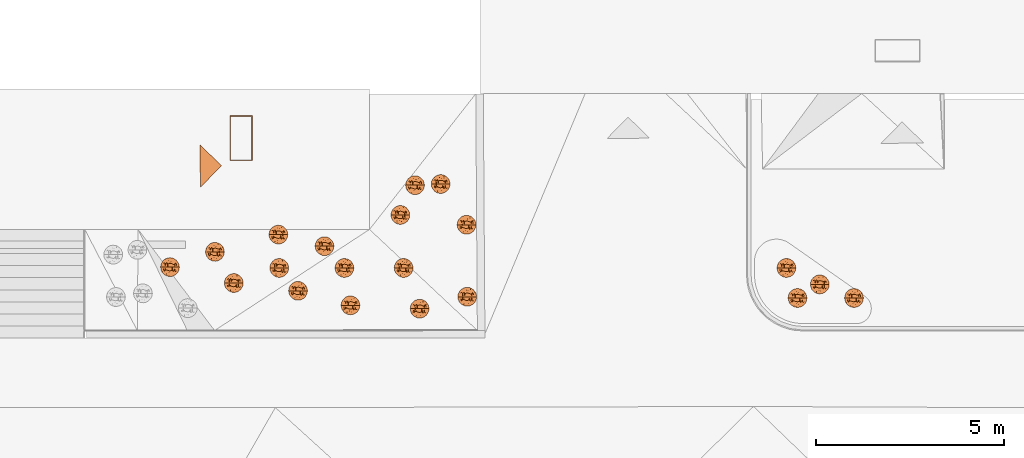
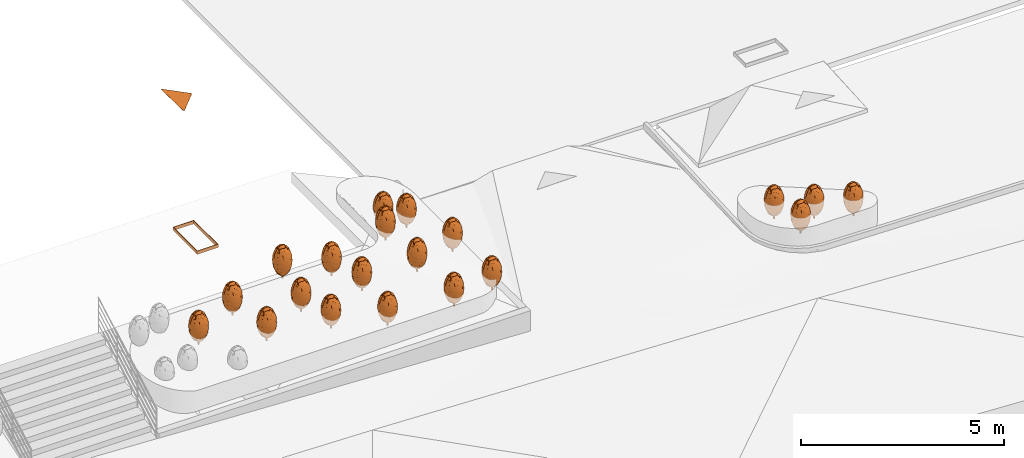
# One storey, part 22 of 23: 22 proxies.
"""IFC2X3 building model written with IfcOpenShell, lengths in metres."""

from ifc_helpers import new_model, entity, si_unit, converted_unit, direction, frame, origin, place, context, subcontext, project, spatial, polyline, outline, extrude, faceted_brep, source, transform, mapped, material, type_object, type_shapes, element, save


model = new_model("IFC2X3")

# Units and contexts
model_context = context("Model", 3, precision=1e-05, world=origin(), true_north=direction((0.7716245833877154, 0.6360782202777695)))
body_context = subcontext(model_context, "Body", "Model", "MODEL_VIEW")
ifc_project = project(units=[si_unit("LENGTHUNIT", "METRE"), converted_unit("PLANEANGLEUNIT", "DEGREE", entity("IfcPlaneAngleMeasure", 0.017453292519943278), si_unit("PLANEANGLEUNIT", "RADIAN"), dimensions=[0, 0, 0, 0, 0, 0, 0]), si_unit("AREAUNIT", "SQUARE_METRE")], contexts=[model_context])

# Site, building, storey
site_placement = place(None, origin())
site = spatial("IfcSite", under=ifc_project, at=site_placement, Name="Default", CompositionType="ELEMENT")
building_placement = place(site_placement, origin())
building = spatial("IfcBuilding", under=site, at=building_placement, Name="<Building Name>", CompositionType="ELEMENT")
storey_placement = place(building_placement, origin())
storey = spatial("IfcBuildingStorey", under=building, at=storey_placement, Name="00 - HAV", CompositionType="ELEMENT", Elevation=0.0)

# Proxies
ifc_material_1 = material(Name="Entrépil")
building_element_proxy_type_1 = type_object("IfcBuildingElementProxyType", Name="011_Entrépil_3D:Hovedentré", PredefinedType="NOTDEFINED", material=ifc_material_1)
shared_shape_1 = source(origin(), body_context, "Body", "SweptSolid", [
    extrude(outline(polyline([(-0.2666666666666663, -0.2666666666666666), (0.5333333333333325, -0.2666666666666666), (-0.2666666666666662, 0.5333333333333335), (-0.2666666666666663, -0.2666666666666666)])), frame((0.0, -0.377123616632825, 0.0), z_axis=(0.0, 0.0, 1.0), x_axis=(-0.7071067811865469, -0.7071067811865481, 0.0)), (0.0, 0.0, 1.0), 0.003),
])
type_shapes(building_element_proxy_type_1, [shared_shape_1])
proxy_1_placement = place(storey_placement, frame((251.62957156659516, 51.27847265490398, 38.0), z_axis=(0.0, 0.0, 1.0), x_axis=(0.01389123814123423, -0.9999035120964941, 0.0)))
element("IfcBuildingElementProxy", 1, at=proxy_1_placement, inside=storey, type_object=building_element_proxy_type_1, material=ifc_material_1, Name="011_Entrépil_3D:Hovedentré", ObjectType="011_Entrépil_3D:Hovedentré", context=body_context, shape_type="MappedRepresentation", body=[
    mapped(shared_shape_1, transform((0.0, 0.0, 0.0), scale=1.0)),
])
ifc_material_2 = material(Name="<Unnamed>")
building_element_proxy_type_2 = type_object("IfcBuildingElementProxyType", Name="812_Shrub_Solitary:812xxx Amelanchier laevis (Allegheny serviceberry) (Multi-stem), 4m 2", PredefinedType="NOTDEFINED", material=ifc_material_2)
shared_shape_2 = source(origin(), body_context, "Body", "Brep", [
    faceted_brep([(0.01250000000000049, -0.02165063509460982, 0.10249999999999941), (0.017677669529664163, -0.0176776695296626, 0.10249999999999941), (0.021650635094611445, -0.01249999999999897, 0.10249999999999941), (0.0241481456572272, -0.006470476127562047, 0.10249999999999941), (0.025000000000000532, 0.0, 0.10249999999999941), (0.024148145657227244, 0.006470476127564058, 0.10249999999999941), (0.021650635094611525, 0.012500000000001, 0.10249999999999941), (0.017677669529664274, 0.017677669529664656, 0.10249999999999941), (0.012500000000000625, 0.02165063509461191, 0.10249999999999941), (0.0064704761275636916, 0.02414814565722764, 0.10249999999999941), (0.0, 0.025000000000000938, 0.10249999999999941), (-0.006470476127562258, 0.02414814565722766, 0.10249999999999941), (-0.012499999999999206, 0.021650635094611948, 0.10249999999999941), (-0.017677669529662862, 0.017677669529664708, 0.10249999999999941), (-0.02165063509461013, 0.012500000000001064, 0.10249999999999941), (-0.024148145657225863, 0.006470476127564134, 0.10249999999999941), (-0.024999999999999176, 0.0, 0.10249999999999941), (-0.024148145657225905, -0.006470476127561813, 0.10249999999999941), (-0.021650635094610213, -0.012499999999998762, 0.10249999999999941), (-0.01767766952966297, -0.017677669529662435, 0.10249999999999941), (-0.012499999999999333, -0.0216506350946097, 0.10249999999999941), (-0.006470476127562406, -0.024148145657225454, 0.10249999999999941), (0.0, -0.02499999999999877, 0.10249999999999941), (0.0064704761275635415, -0.024148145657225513, 0.10249999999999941), (0.0, 0.025000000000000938, 0.0), (0.0064704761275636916, 0.02414814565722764, 0.0), (0.012500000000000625, 0.02165063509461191, 0.0), (0.017677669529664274, 0.017677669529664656, 0.0), (0.021650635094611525, 0.012500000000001, 0.0), (0.024148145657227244, 0.006470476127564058, 0.0), (0.025000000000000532, 0.0, 0.0), (0.0241481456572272, -0.006470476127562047, 0.0), (0.021650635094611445, -0.01249999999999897, 0.0), (0.017677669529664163, -0.0176776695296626, 0.0), (0.01250000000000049, -0.02165063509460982, 0.0), (0.0064704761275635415, -0.024148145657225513, 0.0), (0.0, -0.02499999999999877, 0.0), (-0.006470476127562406, -0.024148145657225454, 0.0), (-0.012499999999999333, -0.0216506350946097, 0.0), (-0.01767766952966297, -0.017677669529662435, 0.0), (-0.021650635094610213, -0.012499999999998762, 0.0), (-0.024148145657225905, -0.006470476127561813, 0.0), (-0.024999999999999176, 0.0, 0.0), (-0.024148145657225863, 0.006470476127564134, 0.0), (-0.02165063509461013, 0.012500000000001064, 0.0), (-0.017677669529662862, 0.017677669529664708, 0.0), (-0.012499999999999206, 0.021650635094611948, 0.0), (-0.006470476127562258, 0.02414814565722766, 0.0)], [[[0, 1, 2, 3, 4, 5, 6, 7, 8, 9, 10, 11, 12, 13, 14, 15, 16, 17, 18, 19, 20, 21, 22, 23]], [[24, 25, 26, 27, 28, 29, 30, 31, 32, 33, 34, 35, 36, 37, 38, 39, 40, 41, 42, 43, 44, 45, 46, 47]], [[17, 41, 40, 18]], [[39, 19, 18, 40]], [[20, 38, 37, 21]], [[39, 38, 20, 19]], [[21, 37, 36, 22]], [[41, 17, 16, 42]], [[23, 35, 34, 0]], [[33, 1, 0, 34]], [[2, 32, 31, 3]], [[33, 32, 2, 1]], [[3, 31, 30, 4]], [[35, 23, 22, 36]], [[30, 29, 5, 4]], [[8, 26, 25, 9]], [[26, 8, 7, 27]], [[24, 10, 9, 25]], [[5, 29, 28, 6]], [[28, 27, 7, 6]], [[11, 47, 46, 12]], [[45, 13, 12, 46]], [[14, 44, 43, 15]], [[45, 44, 14, 13]], [[15, 43, 42, 16]], [[47, 11, 10, 24]]]),
    faceted_brep([(0.23850803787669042, 0.06991061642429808, 0.5985139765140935), (0.24620193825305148, 0.0, 0.4718583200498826), (0.22939334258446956, 0.07726705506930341, 0.4374676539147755), (0.20614438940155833, 0.12376125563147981, 0.42676055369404), (0.21249588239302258, 0.13170231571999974, 0.550000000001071), (0.1606969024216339, 0.0, 0.20528000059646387), (0.20815678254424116, 0.06833092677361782, 0.3332390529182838), (0.1818434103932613, 0.0, 0.2411912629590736), (0.22955402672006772, 0.0, 0.37176410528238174), (0.21650635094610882, 0.0, 0.32500000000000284), (0.2394973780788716, 0.0, 0.42093854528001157), (-0.04646607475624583, 0.22683739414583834, 0.7196751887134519), (-0.09452961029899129, 0.20157258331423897, 0.7546992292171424), (-0.07216705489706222, 0.17646586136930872, 0.8410868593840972), (0.08550503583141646, 0.0, 0.12713832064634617), (0.08891084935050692, 0.08663704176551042, 0.15940048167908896), (0.11951962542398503, 0.12413953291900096, 0.2239840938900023), (0.20053079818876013, 0.0, 0.28127863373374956), (0.0429519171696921, 0.12823742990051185, 0.17152760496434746), (0.028420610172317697, 0.1873149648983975, 0.2563992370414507), (0.07825571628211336, 0.15560596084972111, 0.22718803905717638), (0.0, 0.0, 0.10000000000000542), (-0.004372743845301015, 0.08574662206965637, 0.12737013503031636), (0.02902322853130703, 0.0, 0.10304273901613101), (0.057653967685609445, 0.0, 0.11212980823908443), (-0.18184341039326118, 0.0, 0.8588087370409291), (-0.1730739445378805, 0.10013384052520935, 0.820111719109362), (-0.22008812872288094, 0.08946742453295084, 0.6900857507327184), (0.053638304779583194, 0.067106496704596, 0.12740365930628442), (-0.17866462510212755, 0.14938268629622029, 0.3863705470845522), (-0.17300950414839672, 0.09642195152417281, 0.275415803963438), (-0.20799024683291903, 0.10007060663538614, 0.37710692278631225), (0.1818434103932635, 0.0, 0.8588087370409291), (0.1915393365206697, 0.11790696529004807, 0.7464444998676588), (0.1707596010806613, 0.06946813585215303, 0.8539567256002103), (0.14896670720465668, 0.11208042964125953, 0.8498331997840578), (0.15051536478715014, 0.17622808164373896, 0.7187473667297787), (0.11219979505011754, 0.0, 0.9521346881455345), (0.1203563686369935, 0.07887752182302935, 0.9179786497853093), (0.08550503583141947, 0.0, 0.9728616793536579), (0.15820107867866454, 0.19181689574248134, 0.503106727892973), (0.17120329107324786, 0.07276259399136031, 0.24936746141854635), (0.14996737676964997, 0.11073733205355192, 0.2501660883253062), (0.13541917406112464, 0.16776818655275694, 0.32220587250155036), (0.170606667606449, 0.13531021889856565, 0.328925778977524), (-0.11334119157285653, 0.15094946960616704, 0.25495352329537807), (-0.14499102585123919, 0.11835688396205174, 0.25167069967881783), (-0.13945550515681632, 0.17086120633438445, 0.3380993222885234), (0.24957703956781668, 0.0, 0.523834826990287), (0.24957703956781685, 0.0, 0.5761651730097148), (0.11219979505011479, 0.0, 0.14786531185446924), (0.24620193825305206, 0.0, 0.6281416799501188), (0.23949737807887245, 0.0, 0.6790614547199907), (-0.13737724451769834, 0.0, 0.17403048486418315), (0.22955402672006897, 0.0, 0.7282358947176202), (0.22120629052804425, 0.06932199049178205, 0.7184922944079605), (-0.20053079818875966, 0.0, 0.8187213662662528), (-0.21650635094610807, 0.0, 0.7749999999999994), (0.21650635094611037, 0.0, 0.7749999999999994), (-0.05765396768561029, 0.0, 0.9878701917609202), (-0.0516096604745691, 0.08560533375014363, 0.9624639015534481), (-0.08578183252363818, 0.1210822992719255, 0.9121560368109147), (0.20053079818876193, 0.0, 0.8187213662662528), (-0.24957703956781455, 0.0, 0.5761651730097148), (-0.23797372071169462, 0.07584140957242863, 0.530564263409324), (-0.24957703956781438, 0.0, 0.523834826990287), (0.13737724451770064, 0.0, 0.17403048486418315), (0.13737724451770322, 0.0, 0.9259695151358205), (-0.026479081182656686, 0.17855758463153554, 0.8613326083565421), (0.02483314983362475, 0.2186065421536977, 0.7636964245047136), (-0.05739184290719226, 0.24332319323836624, 0.5500000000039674), (-0.0033896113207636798, 0.244481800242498, 0.6438274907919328), (0.08896846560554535, 0.07373557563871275, 0.9490469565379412), (0.05765396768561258, 0.0, 0.9878701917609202), (-0.20416814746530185, 0.14427531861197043, 0.5500000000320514), (2.568366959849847e-09, 0.10077345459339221, 0.9618213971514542), (0.0, 0.0, 1.0), (0.02902322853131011, 0.0, 0.9969572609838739), (0.16069690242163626, 0.0, 0.8947199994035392), (-0.05765396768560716, 0.0, 0.11212980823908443), (-0.08550503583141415, 0.0, 0.12713832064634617), (-0.08578183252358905, 0.12108229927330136, 0.18784396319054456), (-0.08550503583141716, 0.0, 0.9728616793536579), (-0.12066945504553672, 0.08428787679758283, 0.9137355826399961), (-0.11219979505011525, 0.0, 0.9521346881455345), (-0.051609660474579, 0.08560533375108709, 0.1375360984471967), (-0.20053079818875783, 0.0, 0.28127863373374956), (-0.2308466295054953, 0.058309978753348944, 0.41280055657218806), (-0.023374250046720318, 0.13205871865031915, 0.17022926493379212), (-0.181843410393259, 0.0, 0.2411912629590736), (-0.1606969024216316, 0.0, 0.20528000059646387), (0.08658519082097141, 0.18332310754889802, 0.8132904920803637), (0.026110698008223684, 0.15717904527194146, 0.8967651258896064), (0.08246489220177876, 0.13964564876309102, 0.8924668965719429), (-0.12066945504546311, 0.0842878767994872, 0.18626441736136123), (0.05095144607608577, 0.09001895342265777, 0.9596751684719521), (-0.2165063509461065, 0.0, 0.32500000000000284), (-0.23781016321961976, 0.052988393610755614, 0.6508410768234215), (-0.22955402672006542, 0.0, 0.37176410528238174), (-0.23949737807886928, 0.0, 0.42093854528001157), (-0.24620193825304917, 0.0, 0.4718583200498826), (-0.08031082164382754, 0.21357520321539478, 0.3661195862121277), (-0.012349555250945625, 0.23447128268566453, 0.39546493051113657), (0.20939264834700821, 0.12324851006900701, 0.6559483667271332), (-0.14472249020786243, 0.1183987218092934, 0.848697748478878), (-0.13737724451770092, 0.0, 0.9259695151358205), (0.11730355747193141, 0.14275963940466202, 0.8531253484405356), (0.1840833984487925, 0.1628436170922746, 0.6323931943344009), (-0.17594791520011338, 0.1759340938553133, 0.5062957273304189), (-0.18270938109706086, 0.15312253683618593, 0.6855481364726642), (-0.14118269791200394, 0.20615647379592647, 0.5352714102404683), (-0.02902322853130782, 0.0, 0.9969572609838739), (-0.14808527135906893, 0.1909384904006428, 0.4345577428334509), (-0.11094403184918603, 0.2171588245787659, 0.4508615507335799), (-0.02647908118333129, 0.17855758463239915, 0.23866739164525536), (-0.23949737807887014, 0.0, 0.6790614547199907), (-0.24620193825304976, 0.0, 0.6281416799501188), (-0.22955402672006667, 0.0, 0.7282358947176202), (-0.16069690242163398, 0.0, 0.8947199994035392), (-0.029023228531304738, 0.0, 0.10304273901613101), (-0.13945550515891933, 0.17086120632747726, 0.7619006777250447), (-0.11219979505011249, 0.0, 0.14786531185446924), (-0.07181989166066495, 0.17685086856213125, 0.2593923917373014), (-0.11334119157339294, 0.1509494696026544, 0.845046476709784), (0.1109116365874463, 0.22078270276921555, 0.481372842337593), (0.12522531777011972, 0.2139791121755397, 0.6078122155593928), (0.09324044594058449, 0.21198940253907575, 0.7194938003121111), (0.05067237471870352, 0.23586133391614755, 0.66805779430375), (0.061434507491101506, 0.23474314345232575, 0.44167860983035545), (0.052992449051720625, 0.21379342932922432, 0.3371415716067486), (-0.10157212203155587, 0.22830956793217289, 0.5636900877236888), (-0.12347067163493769, 0.20953070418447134, 0.6542117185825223), (0.09763635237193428, 0.20402573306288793, 0.35831358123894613), (-0.01035446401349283, 0.24963845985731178, 0.5345761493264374), (0.03671083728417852, 0.24727484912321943, 0.554917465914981), (0.0836342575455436, 0.23531808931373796, 0.5705789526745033), (-0.23850803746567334, -0.06991061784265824, 0.5985139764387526), (-0.22939334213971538, -0.07726705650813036, 0.43746765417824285), (-0.20614438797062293, -0.12376125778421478, 0.4267605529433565), (-0.212495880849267, -0.1317023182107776, 0.5500000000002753), (-0.20815678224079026, -0.06833092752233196, 0.33323905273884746), (0.04646608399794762, -0.22683739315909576, 0.7196751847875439), (0.0945296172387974, -0.20157258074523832, 0.7546992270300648), (0.07216706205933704, -0.17646585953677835, 0.8410868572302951), (-0.08891084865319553, -0.08663704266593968, 0.1594004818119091), (-0.11951962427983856, -0.12413953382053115, 0.22398409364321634), (-0.04295191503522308, -0.12823743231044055, 0.17152760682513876), (-0.028420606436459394, -0.1873149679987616, 0.25639924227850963), (-0.07825571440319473, -0.1556059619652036, 0.22718803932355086), (0.004372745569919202, -0.08574662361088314, 0.12737013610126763), (0.1730739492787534, -0.10013384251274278, 0.8201117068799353), (0.22008813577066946, -0.08946741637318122, 0.690085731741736), (-0.05363830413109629, -0.06710649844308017, 0.12740365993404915), (0.17866463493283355, -0.14938268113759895, 0.3863705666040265), (0.17300950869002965, -0.09642195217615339, 0.27541581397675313), (0.207990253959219, -0.10007060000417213, 0.3771069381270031), (-0.19153933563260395, -0.1179069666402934, 0.746444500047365), (-0.1707596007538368, -0.06946813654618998, 0.853956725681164), (-0.14896670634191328, -0.11208043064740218, 0.8498331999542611), (-0.15051536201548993, -0.17622808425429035, 0.7187473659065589), (-0.12035636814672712, -0.07887752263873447, 0.9179786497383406), (-0.15820107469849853, -0.19181689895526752, 0.5031067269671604), (-0.1712032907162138, -0.07276259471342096, 0.2493674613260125), (-0.1499673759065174, -0.11073733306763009, 0.2501660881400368), (-0.13541917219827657, -0.16776818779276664, 0.32220587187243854), (-0.1706066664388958, -0.13531022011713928, 0.3289257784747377), (0.11334119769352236, -0.1509494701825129, 0.2549535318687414), (0.14499103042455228, -0.11835688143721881, 0.2516707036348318), (0.13945551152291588, -0.17086120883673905, 0.3380993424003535), (-0.22120629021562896, -0.06932199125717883, 0.7184922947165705), (0.05160966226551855, -0.08560533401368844, 0.9624639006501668), (0.08578183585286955, -0.12108229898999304, 0.9121560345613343), (0.23797372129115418, -0.07584140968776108, 0.5305642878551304), (0.026479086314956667, -0.17855758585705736, 0.8613326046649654), (-0.024833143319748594, -0.21860654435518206, 0.7636964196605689), (0.05739185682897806, -0.2433231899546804, 0.5499999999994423), (0.0033896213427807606, -0.24448180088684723, 0.643827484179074), (-0.08896846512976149, -0.07373557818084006, 0.9490469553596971), (0.20416816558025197, -0.144275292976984, 0.5499999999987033), (0.0, -0.1007734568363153, 0.9618213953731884), (0.08578183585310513, -0.12108229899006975, 0.18784396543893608), (0.12066945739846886, -0.08428787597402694, 0.9137355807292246), (0.05160966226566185, -0.08560533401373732, 0.13753609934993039), (0.23084663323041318, -0.05830997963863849, 0.4128005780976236), (0.023374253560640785, -0.1320587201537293, 0.17022926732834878), (-0.0865851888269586, -0.183323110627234, 0.8132904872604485), (-0.0261106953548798, -0.15717904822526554, 0.8967651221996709), (-0.08246489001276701, -0.13964565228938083, 0.8924668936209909), (0.12066945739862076, -0.08428787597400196, 0.1862644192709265), (-0.050951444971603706, -0.09001895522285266, 0.9596751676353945), (0.23781016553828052, -0.05298839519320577, 0.6508410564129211), (0.08031082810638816, -0.2135752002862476, 0.3661195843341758), (0.012349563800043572, -0.2344712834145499, 0.3954649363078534), (-0.20939264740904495, -0.12324851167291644, 0.6559483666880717), (0.1447224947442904, -0.11839871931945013, 0.8486977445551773), (-0.1173035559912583, -0.14275964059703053, 0.8531253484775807), (-0.18408339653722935, -0.16284361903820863, 0.6323931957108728), (0.17594794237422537, -0.1759340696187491, 0.5062957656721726), (0.18270939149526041, -0.1531225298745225, 0.6855481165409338), (0.1411827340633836, -0.2061564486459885, 0.5352713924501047), (0.14808532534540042, -0.19093844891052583, 0.4345577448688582), (0.11094408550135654, -0.2171587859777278, 0.4508614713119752), (0.026479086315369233, -0.17855758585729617, 0.23866739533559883), (0.13945551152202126, -0.17086120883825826, 0.7619006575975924), (0.071819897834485, -0.17685086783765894, 0.25939239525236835), (0.11334119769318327, -0.15094947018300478, 0.8450464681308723), (-0.11091162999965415, -0.22078270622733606, 0.4813728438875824), (-0.12522531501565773, -0.21397911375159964, 0.6078122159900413), (-0.09324044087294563, -0.21198940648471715, 0.7194937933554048), (-0.05067236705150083, -0.2358613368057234, 0.6680577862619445), (-0.06143449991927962, -0.2347431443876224, 0.4416786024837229), (-0.05299244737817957, -0.21379342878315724, 0.3371415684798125), (0.10157214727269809, -0.2283095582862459, 0.5636900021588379), (0.1234706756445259, -0.2095307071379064, 0.6542116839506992), (-0.09763634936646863, -0.20402573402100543, 0.35831357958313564), (0.010354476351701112, -0.24963845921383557, 0.5345761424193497), (-0.03671082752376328, -0.24727485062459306, 0.5549174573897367), (-0.08363425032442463, -0.23531809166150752, 0.5705789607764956)], [[[0, 1, 2]], [[2, 3, 4]], [[5, 6, 7]], [[2, 8, 9]], [[2, 1, 10]], [[11, 12, 13]], [[14, 15, 16]], [[8, 2, 10]], [[6, 17, 7]], [[18, 19, 20]], [[21, 22, 23]], [[15, 14, 24]], [[25, 26, 27]], [[28, 22, 18]], [[6, 2, 9]], [[29, 30, 31]], [[32, 33, 34]], [[35, 33, 36]], [[37, 38, 39]], [[4, 3, 40]], [[5, 41, 6]], [[42, 43, 44]], [[45, 46, 47]], [[35, 38, 37]], [[48, 1, 0]], [[0, 49, 48]], [[41, 42, 44]], [[16, 42, 50]], [[50, 14, 16]], [[51, 0, 52]], [[30, 46, 53]], [[0, 54, 52]], [[54, 0, 55]], [[56, 27, 57]], [[54, 55, 58]], [[59, 60, 61]], [[58, 55, 62]], [[62, 55, 32]], [[63, 64, 65]], [[66, 41, 5]], [[24, 23, 28]], [[34, 35, 67]], [[49, 0, 51]], [[11, 68, 69]], [[37, 67, 35]], [[70, 11, 71]], [[72, 73, 39]], [[64, 74, 31]], [[75, 76, 77]], [[78, 34, 67]], [[79, 80, 81]], [[82, 83, 84]], [[81, 85, 79]], [[86, 87, 31]], [[64, 31, 87]], [[22, 85, 88]], [[89, 30, 90]], [[91, 92, 93]], [[32, 55, 33]], [[80, 94, 81]], [[75, 95, 92]], [[30, 89, 31]], [[96, 87, 86]], [[97, 64, 63]], [[27, 64, 97]], [[96, 98, 87]], [[87, 99, 64]], [[47, 30, 29]], [[99, 100, 64]], [[101, 70, 102]], [[15, 20, 16]], [[99, 87, 98]], [[30, 53, 90]], [[86, 31, 89]], [[103, 0, 4]], [[100, 65, 64]], [[83, 104, 84]], [[105, 84, 104]], [[38, 106, 93]], [[33, 107, 36]], [[83, 82, 61]], [[61, 82, 59]], [[108, 109, 110]], [[60, 59, 111]], [[26, 109, 27]], [[112, 110, 113]], [[102, 19, 114]], [[77, 95, 75]], [[115, 97, 116]], [[57, 97, 117]], [[75, 111, 76]], [[3, 2, 6]], [[0, 2, 4]], [[118, 26, 25]], [[64, 27, 74]], [[115, 117, 97]], [[27, 97, 57]], [[25, 27, 56]], [[44, 43, 40]], [[105, 26, 118]], [[116, 97, 63]], [[6, 9, 17]], [[68, 92, 69]], [[21, 119, 22]], [[109, 26, 120]], [[4, 107, 103]], [[94, 80, 121]], [[81, 45, 122]], [[77, 73, 95]], [[60, 68, 61]], [[66, 50, 42]], [[6, 41, 44]], [[32, 34, 78]], [[33, 35, 34]], [[85, 119, 79]], [[18, 22, 88]], [[61, 123, 83]], [[83, 123, 104]], [[121, 53, 46]], [[45, 81, 94]], [[72, 95, 73]], [[75, 92, 68]], [[28, 15, 24]], [[20, 15, 18]], [[106, 38, 35]], [[72, 38, 93]], [[6, 44, 3]], [[40, 3, 44]], [[40, 124, 125]], [[126, 106, 36]], [[111, 75, 60]], [[68, 60, 75]], [[88, 81, 114]], [[22, 119, 85]], [[95, 93, 92]], [[93, 106, 91]], [[127, 69, 126]], [[71, 69, 127]], [[125, 126, 36]], [[102, 128, 129]], [[130, 110, 131]], [[12, 120, 123]], [[18, 88, 19]], [[132, 16, 20]], [[81, 122, 114]], [[20, 19, 129]], [[71, 133, 70]], [[134, 135, 128]], [[12, 131, 120]], [[27, 109, 74]], [[131, 109, 120]], [[110, 130, 113]], [[13, 12, 123]], [[104, 120, 26]], [[123, 61, 13]], [[70, 130, 11]], [[131, 12, 11]], [[109, 131, 110]], [[61, 68, 13]], [[11, 13, 68]], [[46, 45, 94]], [[45, 47, 101]], [[112, 113, 47]], [[114, 101, 102]], [[45, 101, 122]], [[101, 114, 122]], [[38, 72, 39]], [[95, 72, 93]], [[36, 106, 35]], [[91, 106, 126]], [[126, 69, 91]], [[92, 91, 69]], [[33, 103, 107]], [[36, 107, 125]], [[120, 104, 123]], [[105, 104, 26]], [[46, 94, 121]], [[47, 46, 30]], [[42, 41, 66]], [[43, 16, 132]], [[16, 43, 42]], [[43, 132, 124]], [[40, 43, 124]], [[126, 125, 135]], [[128, 124, 132]], [[135, 125, 124]], [[129, 128, 132]], [[133, 128, 102]], [[20, 129, 132]], [[102, 129, 19]], [[128, 135, 124]], [[135, 134, 127]], [[31, 74, 29]], [[112, 108, 110]], [[11, 130, 131]], [[113, 70, 101]], [[70, 113, 130]], [[47, 113, 101]], [[47, 29, 112]], [[108, 29, 74]], [[29, 108, 112]], [[109, 108, 74]], [[4, 40, 107]], [[125, 107, 40]], [[22, 28, 23]], [[15, 28, 18]], [[81, 88, 85]], [[88, 114, 19]], [[33, 55, 103]], [[0, 103, 55]], [[135, 127, 126]], [[71, 127, 134]], [[71, 134, 133]], [[69, 71, 11]], [[128, 133, 134]], [[102, 70, 133]], [[136, 100, 137]], [[137, 138, 139]], [[90, 140, 89]], [[137, 98, 96]], [[137, 100, 99]], [[141, 142, 143]], [[80, 144, 145]], [[98, 137, 99]], [[140, 86, 89]], [[146, 147, 148]], [[21, 149, 119]], [[144, 80, 79]], [[32, 150, 151]], [[152, 149, 146]], [[140, 137, 96]], [[153, 154, 155]], [[25, 156, 157]], [[158, 156, 159]], [[84, 160, 82]], [[139, 138, 161]], [[90, 162, 140]], [[163, 164, 165]], [[166, 167, 168]], [[158, 160, 84]], [[65, 100, 136]], [[136, 63, 65]], [[162, 163, 165]], [[145, 163, 121]], [[121, 80, 145]], [[116, 136, 115]], [[154, 167, 66]], [[136, 117, 115]], [[117, 136, 169]], [[62, 151, 58]], [[117, 169, 57]], [[73, 170, 171]], [[57, 169, 56]], [[56, 169, 25]], [[49, 172, 48]], [[53, 162, 90]], [[79, 119, 152]], [[157, 158, 105]], [[63, 136, 116]], [[141, 173, 174]], [[84, 105, 158]], [[175, 141, 176]], [[177, 59, 82]], [[172, 178, 155]], [[179, 76, 111]], [[118, 157, 105]], [[24, 14, 180]], [[39, 181, 37]], [[180, 182, 24]], [[17, 183, 155]], [[172, 155, 183]], [[149, 182, 184]], [[7, 154, 5]], [[185, 186, 187]], [[25, 169, 156]], [[14, 188, 180]], [[179, 189, 186]], [[7, 155, 154]], [[9, 183, 17]], [[190, 172, 49]], [[151, 172, 190]], [[9, 8, 183]], [[183, 10, 172]], [[168, 154, 153]], [[10, 1, 172]], [[191, 175, 192]], [[144, 148, 145]], [[10, 183, 8]], [[154, 66, 5]], [[17, 155, 7]], [[193, 136, 139]], [[1, 48, 172]], [[181, 194, 37]], [[67, 37, 194]], [[160, 195, 187]], [[156, 196, 159]], [[181, 39, 171]], [[171, 39, 73]], [[197, 198, 199]], [[170, 73, 77]], [[150, 198, 151]], [[200, 199, 201]], [[192, 147, 202]], [[111, 189, 179]], [[190, 51, 52]], [[58, 190, 54]], [[179, 77, 76]], [[138, 137, 140]], [[136, 137, 139]], [[78, 150, 32]], [[172, 151, 178]], [[52, 54, 190]], [[151, 190, 58]], [[32, 151, 62]], [[165, 164, 161]], [[67, 150, 78]], [[51, 190, 49]], [[140, 96, 86]], [[173, 186, 174]], [[21, 23, 149]], [[198, 150, 203]], [[139, 196, 193]], [[188, 14, 50]], [[180, 166, 204]], [[111, 59, 189]], [[170, 173, 171]], [[53, 121, 163]], [[140, 162, 165]], [[25, 157, 118]], [[156, 158, 157]], [[182, 23, 24]], [[146, 149, 184]], [[171, 205, 181]], [[181, 205, 194]], [[50, 66, 167]], [[166, 180, 188]], [[177, 189, 59]], [[179, 186, 173]], [[152, 144, 79]], [[148, 144, 146]], [[195, 160, 158]], [[177, 160, 187]], [[140, 165, 138]], [[161, 138, 165]], [[161, 206, 207]], [[208, 195, 159]], [[77, 179, 170]], [[173, 170, 179]], [[184, 180, 202]], [[149, 23, 182]], [[189, 187, 186]], [[187, 195, 185]], [[209, 174, 208]], [[176, 174, 209]], [[207, 208, 159]], [[192, 210, 211]], [[212, 199, 213]], [[142, 203, 205]], [[146, 184, 147]], [[214, 145, 148]], [[180, 204, 202]], [[148, 147, 211]], [[176, 215, 175]], [[216, 217, 210]], [[142, 213, 203]], [[151, 198, 178]], [[213, 198, 203]], [[199, 212, 201]], [[143, 142, 205]], [[194, 203, 150]], [[205, 171, 143]], [[175, 212, 141]], [[213, 142, 141]], [[198, 213, 199]], [[171, 173, 143]], [[141, 143, 173]], [[167, 166, 188]], [[166, 168, 191]], [[200, 201, 168]], [[202, 191, 192]], [[166, 191, 204]], [[191, 202, 204]], [[160, 177, 82]], [[189, 177, 187]], [[159, 195, 158]], [[185, 195, 208]], [[208, 174, 185]], [[186, 185, 174]], [[156, 193, 196]], [[159, 196, 207]], [[203, 194, 205]], [[67, 194, 150]], [[167, 188, 50]], [[168, 167, 154]], [[163, 162, 53]], [[164, 145, 214]], [[145, 164, 163]], [[164, 214, 206]], [[161, 164, 206]], [[208, 207, 217]], [[210, 206, 214]], [[217, 207, 206]], [[211, 210, 214]], [[215, 210, 192]], [[148, 211, 214]], [[192, 211, 147]], [[210, 217, 206]], [[217, 216, 209]], [[155, 178, 153]], [[200, 197, 199]], [[141, 212, 213]], [[201, 175, 191]], [[175, 201, 212]], [[168, 201, 191]], [[168, 153, 200]], [[197, 153, 178]], [[153, 197, 200]], [[198, 197, 178]], [[139, 161, 196]], [[207, 196, 161]], [[149, 152, 119]], [[144, 152, 146]], [[180, 184, 182]], [[184, 202, 147]], [[156, 169, 193]], [[136, 193, 169]], [[217, 209, 208]], [[176, 209, 216]], [[176, 216, 215]], [[174, 176, 141]], [[210, 215, 216]], [[192, 175, 215]]]),
])
type_shapes(building_element_proxy_type_2, [shared_shape_2])
for number, where, name in (
    (2, (250.2629437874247, 48.586279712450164, 32.57043950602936), "812_Shrub_Solitary:812xxx Amelanchier laevis (Allegheny serviceberry) (Multi-stem), 4m 2"),
    (3, (251.95557279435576, 48.1639958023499, 32.34680173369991), "812_Shrub_Solitary:812xxx Amelanchier laevis (Allegheny serviceberry) (Multi-stem), 4m 2"),
    (4, (251.4558773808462, 48.991113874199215, 32.78483604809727), "812_Shrub_Solitary:812xxx Amelanchier laevis (Allegheny serviceberry) (Multi-stem), 4m 2"),
    (5, (253.13993120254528, 49.4486741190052, 33.02715585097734), "812_Shrub_Solitary:812xxx Amelanchier laevis (Allegheny serviceberry) (Multi-stem), 4m 2"),
    (6, (253.163092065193, 48.564196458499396, 32.558744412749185), "812_Shrub_Solitary:812xxx Amelanchier laevis (Allegheny serviceberry) (Multi-stem), 4m 2"),
    (7, (255.05220493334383, 47.57158408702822, 32.0797085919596), "812_Shrub_Solitary:812xxx Amelanchier laevis (Allegheny serviceberry) (Multi-stem), 4m 2"),
    (8, (258.1497511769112, 47.799897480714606, 31.92624537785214), "812_Shrub_Solitary:812xxx Amelanchier laevis (Allegheny serviceberry) (Multi-stem), 4m 2"),
    (9, (258.13307887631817, 49.710353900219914, 31.92799455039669), "812_Shrub_Solitary:812xxx Amelanchier laevis (Allegheny serviceberry) (Multi-stem), 4m 2"),
    (10, (257.44640843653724, 50.79065272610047, 32.23711097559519), "812_Shrub_Solitary:812xxx Amelanchier laevis (Allegheny serviceberry) (Multi-stem), 4m 2"),
    (11, (256.3760005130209, 49.970628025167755, 32.726622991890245), "812_Shrub_Solitary:812xxx Amelanchier laevis (Allegheny serviceberry) (Multi-stem), 4m 2"),
    (12, (254.89191470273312, 48.56419645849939, 32.575007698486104), "812_Shrub_Solitary:812xxx Amelanchier laevis (Allegheny serviceberry) (Multi-stem), 4m 2"),
    (13, (254.36324034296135, 49.142113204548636, 32.86480393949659), "812_Shrub_Solitary:812xxx Amelanchier laevis (Allegheny serviceberry) (Multi-stem), 4m 2"),
    (14, (253.66081975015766, 47.95665442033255, 32.247835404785), "812_Shrub_Solitary:812xxx Amelanchier laevis (Allegheny serviceberry) (Multi-stem), 4m 2"),
    (15, (256.463092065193, 48.56419645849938, 32.603397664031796), "812_Shrub_Solitary:812xxx Amelanchier laevis (Allegheny serviceberry) (Multi-stem), 4m 2"),
    (16, (256.8872288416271, 47.48333125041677, 32.068571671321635), "812_Shrub_Solitary:812xxx Amelanchier laevis (Allegheny serviceberry) (Multi-stem), 4m 2"),
    (17, (256.76572414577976, 50.76034765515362, 32.546896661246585), "812_Shrub_Solitary:812xxx Amelanchier laevis (Allegheny serviceberry) (Multi-stem), 4m 2"),
    (18, (266.6217588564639, 48.56419645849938, 30.63308051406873), "812_Shrub_Solitary:812xxx Amelanchier laevis (Allegheny serviceberry) (Multi-stem), 4m 2"),
    (19, (268.4151170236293, 47.766570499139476, 30.576670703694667), "812_Shrub_Solitary:812xxx Amelanchier laevis (Allegheny serviceberry) (Multi-stem), 4m 2"),
    (20, (266.9151170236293, 47.76657049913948, 30.581535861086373), "812_Shrub_Solitary:812xxx Amelanchier laevis (Allegheny serviceberry) (Multi-stem), 4m 2"),
    (21, (267.50720151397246, 48.12735765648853, 30.601203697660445), "812_Shrub_Solitary:812xxx Amelanchier laevis (Allegheny serviceberry) (Multi-stem), 4m 2"),
):
    element("IfcBuildingElementProxy", number, at=place(storey_placement, frame(where)), inside=storey, type_object=building_element_proxy_type_2, material=ifc_material_2, Name=name, ObjectType="812_Shrub_Solitary:812xxx Amelanchier laevis (Allegheny serviceberry) (Multi-stem), 4m 2", context=body_context, shape_type="MappedRepresentation", body=[
        mapped(shared_shape_2, transform((0.0, 0.0, 0.0), scale=1.0)),
    ])
ifc_material_3 = material(Name="A_Default_Building_Component")
building_element_proxy_type_3 = type_object("IfcBuildingElementProxyType", Name="rist:rist", PredefinedType="NOTDEFINED", material=ifc_material_3)
shared_shape_3 = source(origin(), body_context, "Body", "SweptSolid", [
    extrude(outline(polyline([(-0.300000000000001, -0.6000000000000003), (0.2999999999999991, -0.6000000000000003), (0.30000000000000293, 0.5999999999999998), (-0.300000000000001, 0.6000000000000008), (-0.300000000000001, -0.6000000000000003)]), holes=[polyline([(0.28000000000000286, 0.5799999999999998), (0.27999999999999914, -0.5800000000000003), (-0.28000000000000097, -0.5800000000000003), (-0.28000000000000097, 0.5800000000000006), (0.28000000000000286, 0.5799999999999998)])]), frame((0.5999999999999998, 0.300000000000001, -0.1), z_axis=(0.0, 0.0, 1.0), x_axis=(0.0, 1.0, 0.0)), (0.0, 0.0, 1.0), 0.1),
])
type_shapes(building_element_proxy_type_3, [shared_shape_3])
proxy_2_placement = place(storey_placement, frame((251.85096257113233, 52.609580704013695, 33.1), z_axis=(0.0, 0.0, 1.0), x_axis=(0.0, -1.0, 0.0)))
element("IfcBuildingElementProxy", 22, at=proxy_2_placement, inside=storey, type_object=building_element_proxy_type_3, material=ifc_material_3, Name="rist:rist", ObjectType="rist:rist", context=body_context, shape_type="MappedRepresentation", body=[
    mapped(shared_shape_3, transform((0.0, 0.0, 0.0), scale=1.0)),
])

save(model, "model.ifc")
